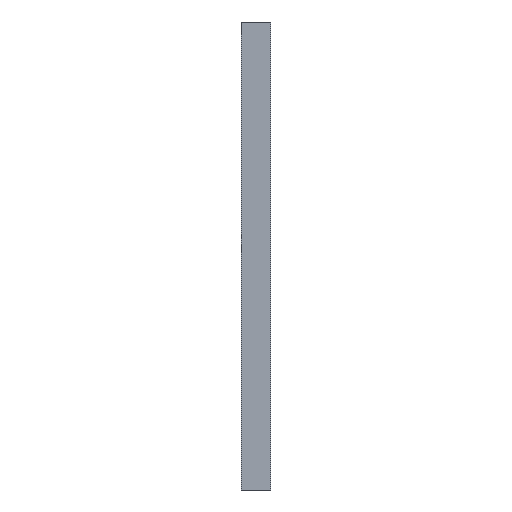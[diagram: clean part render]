
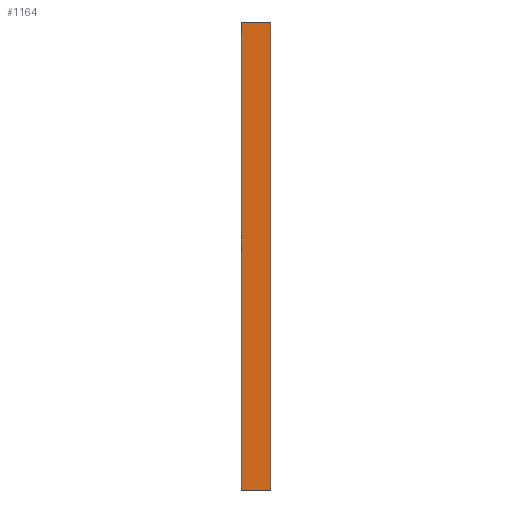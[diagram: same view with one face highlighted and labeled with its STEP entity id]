
A CAD part, left-side view. The second image highlights one B-rep face of the part: STEP entity #1164.
In plain terms, the highlighted planar face has unit normal (-1, 0, 0).
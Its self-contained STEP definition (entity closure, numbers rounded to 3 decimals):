
#90 = PLANE('',#91);
#91 = AXIS2_PLACEMENT_3D('',#92,#93,#94);
#92 = CARTESIAN_POINT('',(0.,0.5,0.));
#93 = DIRECTION('',(0.,-1.,0.));
#94 = DIRECTION('',(1.,0.,0.));
#373 = PLANE('',#374);
#374 = AXIS2_PLACEMENT_3D('',#375,#376,#377);
#375 = CARTESIAN_POINT('',(0.,2.4,0.));
#376 = DIRECTION('',(0.,-1.,0.));
#377 = DIRECTION('',(1.,0.,0.));
#487 = VERTEX_POINT('',#488);
#488 = CARTESIAN_POINT('',(-29.,0.5,-70.));
#501 = PLANE('',#502);
#502 = AXIS2_PLACEMENT_3D('',#503,#504,#505);
#503 = CARTESIAN_POINT('',(-29.,-1.,-70.));
#504 = DIRECTION('',(0.,0.,1.));
#505 = DIRECTION('',(1.,0.,0.));
#573 = PLANE('',#574);
#574 = AXIS2_PLACEMENT_3D('',#575,#576,#577);
#575 = CARTESIAN_POINT('',(-29.,-1.,-40.));
#576 = DIRECTION('',(0.,0.,1.));
#577 = DIRECTION('',(1.,0.,0.));
#735 = VERTEX_POINT('',#736);
#736 = CARTESIAN_POINT('',(-29.,0.5,-40.));
#755 = EDGE_CURVE('',#487,#735,#756,.T.);
#756 = SURFACE_CURVE('',#757,(#761,#767),.PCURVE_S1.);
#757 = LINE('',#758,#759);
#758 = CARTESIAN_POINT('',(-29.,0.5,-35.));
#759 = VECTOR('',#760,1.);
#760 = DIRECTION('',(-0.,0.,1.));
#761 = PCURVE('',#90,#762);
#762 = DEFINITIONAL_REPRESENTATION('',(#763),#766);
#763 = B_SPLINE_CURVE_WITH_KNOTS('',1,(#764,#765),.UNSPECIFIED.,.F.,.F.,
  (2,2),(-35.,-5.),.PIECEWISE_BEZIER_KNOTS.);
#764 = CARTESIAN_POINT('',(-29.,-70.));
#765 = CARTESIAN_POINT('',(-29.,-40.));
#766 = ( GEOMETRIC_REPRESENTATION_CONTEXT(2) 
PARAMETRIC_REPRESENTATION_CONTEXT() REPRESENTATION_CONTEXT('2D SPACE',''
  ) );
#767 = PCURVE('',#768,#773);
#768 = PLANE('',#769);
#769 = AXIS2_PLACEMENT_3D('',#770,#771,#772);
#770 = CARTESIAN_POINT('',(-29.,-1.,-70.));
#771 = DIRECTION('',(1.,0.,0.));
#772 = DIRECTION('',(0.,0.,1.));
#773 = DEFINITIONAL_REPRESENTATION('',(#774),#777);
#774 = B_SPLINE_CURVE_WITH_KNOTS('',1,(#775,#776),.UNSPECIFIED.,.F.,.F.,
  (2,2),(-35.,-5.),.PIECEWISE_BEZIER_KNOTS.);
#775 = CARTESIAN_POINT('',(0.,-1.5));
#776 = CARTESIAN_POINT('',(30.,-1.5));
#777 = ( GEOMETRIC_REPRESENTATION_CONTEXT(2) 
PARAMETRIC_REPRESENTATION_CONTEXT() REPRESENTATION_CONTEXT('2D SPACE',''
  ) );
#1071 = VERTEX_POINT('',#1072);
#1072 = CARTESIAN_POINT('',(-29.,2.4,-70.));
#1097 = VERTEX_POINT('',#1098);
#1098 = CARTESIAN_POINT('',(-29.,2.4,-40.));
#1117 = EDGE_CURVE('',#1071,#1097,#1118,.T.);
#1118 = SURFACE_CURVE('',#1119,(#1123,#1129),.PCURVE_S1.);
#1119 = LINE('',#1120,#1121);
#1120 = CARTESIAN_POINT('',(-29.,2.4,-35.));
#1121 = VECTOR('',#1122,1.);
#1122 = DIRECTION('',(-0.,0.,1.));
#1123 = PCURVE('',#373,#1124);
#1124 = DEFINITIONAL_REPRESENTATION('',(#1125),#1128);
#1125 = B_SPLINE_CURVE_WITH_KNOTS('',1,(#1126,#1127),.UNSPECIFIED.,.F.,
  .F.,(2,2),(-35.,-5.),.PIECEWISE_BEZIER_KNOTS.);
#1126 = CARTESIAN_POINT('',(-29.,-70.));
#1127 = CARTESIAN_POINT('',(-29.,-40.));
#1128 = ( GEOMETRIC_REPRESENTATION_CONTEXT(2) 
PARAMETRIC_REPRESENTATION_CONTEXT() REPRESENTATION_CONTEXT('2D SPACE',''
  ) );
#1129 = PCURVE('',#768,#1130);
#1130 = DEFINITIONAL_REPRESENTATION('',(#1131),#1134);
#1131 = B_SPLINE_CURVE_WITH_KNOTS('',1,(#1132,#1133),.UNSPECIFIED.,.F.,
  .F.,(2,2),(-35.,-5.),.PIECEWISE_BEZIER_KNOTS.);
#1132 = CARTESIAN_POINT('',(0.,-3.4));
#1133 = CARTESIAN_POINT('',(30.,-3.4));
#1134 = ( GEOMETRIC_REPRESENTATION_CONTEXT(2) 
PARAMETRIC_REPRESENTATION_CONTEXT() REPRESENTATION_CONTEXT('2D SPACE',''
  ) );
#1139 = EDGE_CURVE('',#487,#1071,#1140,.T.);
#1140 = SURFACE_CURVE('',#1141,(#1145,#1152),.PCURVE_S1.);
#1141 = LINE('',#1142,#1143);
#1142 = CARTESIAN_POINT('',(-29.,-1.,-70.));
#1143 = VECTOR('',#1144,1.);
#1144 = DIRECTION('',(0.,1.,0.));
#1145 = PCURVE('',#501,#1146);
#1146 = DEFINITIONAL_REPRESENTATION('',(#1147),#1151);
#1147 = LINE('',#1148,#1149);
#1148 = CARTESIAN_POINT('',(0.,0.));
#1149 = VECTOR('',#1150,1.);
#1150 = DIRECTION('',(0.,1.));
#1151 = ( GEOMETRIC_REPRESENTATION_CONTEXT(2) 
PARAMETRIC_REPRESENTATION_CONTEXT() REPRESENTATION_CONTEXT('2D SPACE',''
  ) );
#1152 = PCURVE('',#768,#1153);
#1153 = DEFINITIONAL_REPRESENTATION('',(#1154),#1158);
#1154 = LINE('',#1155,#1156);
#1155 = CARTESIAN_POINT('',(0.,0.));
#1156 = VECTOR('',#1157,1.);
#1157 = DIRECTION('',(0.,-1.));
#1158 = ( GEOMETRIC_REPRESENTATION_CONTEXT(2) 
PARAMETRIC_REPRESENTATION_CONTEXT() REPRESENTATION_CONTEXT('2D SPACE',''
  ) );
#1164 = ADVANCED_FACE('',(#1165),#768,.F.);
#1165 = FACE_BOUND('',#1166,.F.);
#1166 = EDGE_LOOP('',(#1167,#1188,#1189,#1190));
#1167 = ORIENTED_EDGE('',*,*,#1168,.F.);
#1168 = EDGE_CURVE('',#735,#1097,#1169,.T.);
#1169 = SURFACE_CURVE('',#1170,(#1174,#1181),.PCURVE_S1.);
#1170 = LINE('',#1171,#1172);
#1171 = CARTESIAN_POINT('',(-29.,-1.,-40.));
#1172 = VECTOR('',#1173,1.);
#1173 = DIRECTION('',(0.,1.,0.));
#1174 = PCURVE('',#768,#1175);
#1175 = DEFINITIONAL_REPRESENTATION('',(#1176),#1180);
#1176 = LINE('',#1177,#1178);
#1177 = CARTESIAN_POINT('',(30.,0.));
#1178 = VECTOR('',#1179,1.);
#1179 = DIRECTION('',(0.,-1.));
#1180 = ( GEOMETRIC_REPRESENTATION_CONTEXT(2) 
PARAMETRIC_REPRESENTATION_CONTEXT() REPRESENTATION_CONTEXT('2D SPACE',''
  ) );
#1181 = PCURVE('',#573,#1182);
#1182 = DEFINITIONAL_REPRESENTATION('',(#1183),#1187);
#1183 = LINE('',#1184,#1185);
#1184 = CARTESIAN_POINT('',(0.,0.));
#1185 = VECTOR('',#1186,1.);
#1186 = DIRECTION('',(0.,1.));
#1187 = ( GEOMETRIC_REPRESENTATION_CONTEXT(2) 
PARAMETRIC_REPRESENTATION_CONTEXT() REPRESENTATION_CONTEXT('2D SPACE',''
  ) );
#1188 = ORIENTED_EDGE('',*,*,#755,.F.);
#1189 = ORIENTED_EDGE('',*,*,#1139,.T.);
#1190 = ORIENTED_EDGE('',*,*,#1117,.T.);
